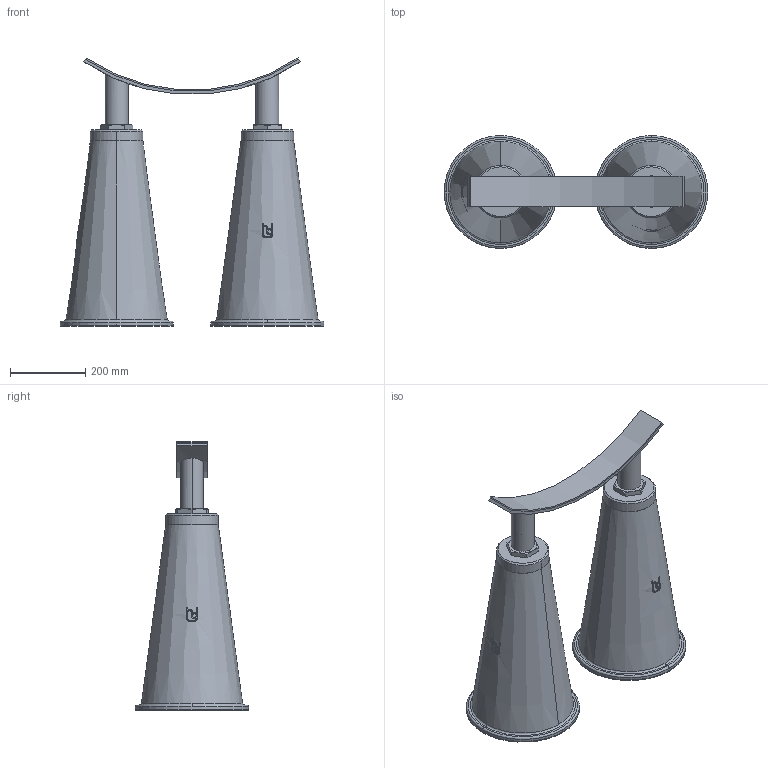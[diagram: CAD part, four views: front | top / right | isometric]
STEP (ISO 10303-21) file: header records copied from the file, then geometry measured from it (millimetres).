
FILE_DESCRIPTION(('STEP AP214'),'1');
FILE_NAME('RSRFC-DUO_DN1000.stp','2018-06-27T11:49:50',(' '),(' '),'Spatial InterOp 3D',' ',' ');
FILE_SCHEMA(('automotive_design'));
Length unit declared in the file: millimetre
Products named in the file (10): 1; 2; 3; 4; 5; 6; 7; 8; 9; 10
Bounding box: 700 x 300 x 712.84 mm (x, y, z)
Volume: 37995702.8 mm3; surface area: 1608628.4 mm2
Topology: 10 solids, 12 shells, 204 faces, 504 edges, 332 vertices
Faces by surface type: plane 82, cylinder 76, cone 38, torus 8
Entity records: 9795 total; most frequent: CARTESIAN_POINT 3154, ORIENTED_EDGE 1008, DIRECTION 998, EDGE_CURVE 504, AXIS2_PLACEMENT_3D 388, VERTEX_POINT 332, LINE 222, VECTOR 222
